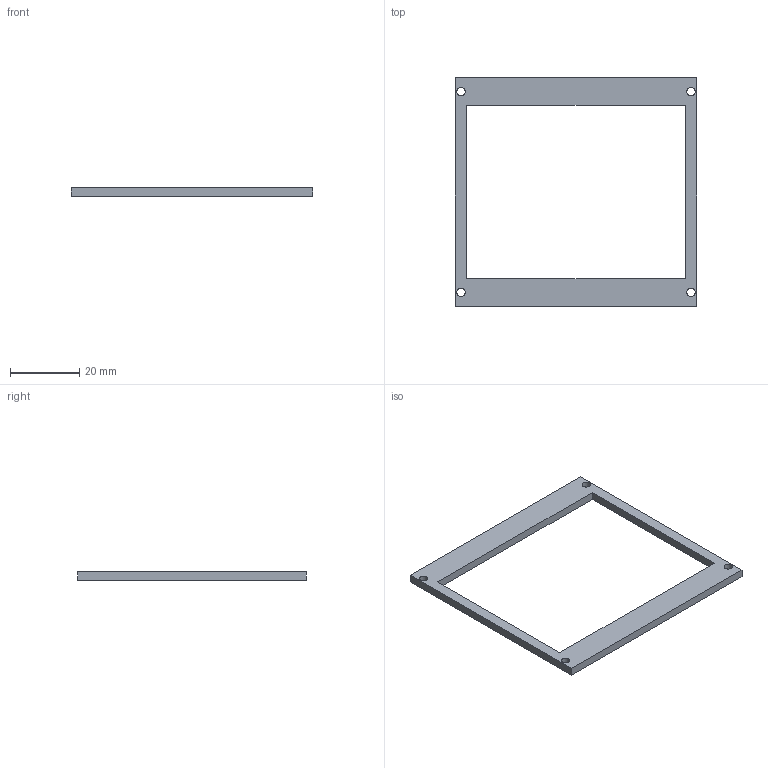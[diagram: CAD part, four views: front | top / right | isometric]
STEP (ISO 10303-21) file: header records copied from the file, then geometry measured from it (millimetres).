
FILE_DESCRIPTION(('FreeCAD Model'),'2;1');
FILE_NAME('Open CASCADE Shape Model','2026-09-10T22:55:30',( '' ),( '' ),'Open CASCADE STEP processor 7.8','FreeCAD','Unknown');
FILE_SCHEMA(('AUTOMOTIVE_DESIGN { 1 0 10303 214 1 1 1 1 }'));
Length unit declared in the file: millimetre
Products named in the file (1): Open CASCADE STEP translator 7.8 8
Bounding box: 69.66 x 66 x 2.4 mm (x, y, z)
Volume: 3399.7 mm3; surface area: 4100.3 mm2
Topology: 1 solids, 1 shells, 14 faces, 36 edges, 24 vertices
Faces by surface type: plane 10, cylinder 4
Full cylindrical faces by diameter (mm): 2.4 x4
Entity records: 458 total; most frequent: CARTESIAN_POINT 75, DIRECTION 74, ORIENTED_EDGE 72, EDGE_CURVE 36, LINE 28, VECTOR 28, FACE_BOUND 24, EDGE_LOOP 24
